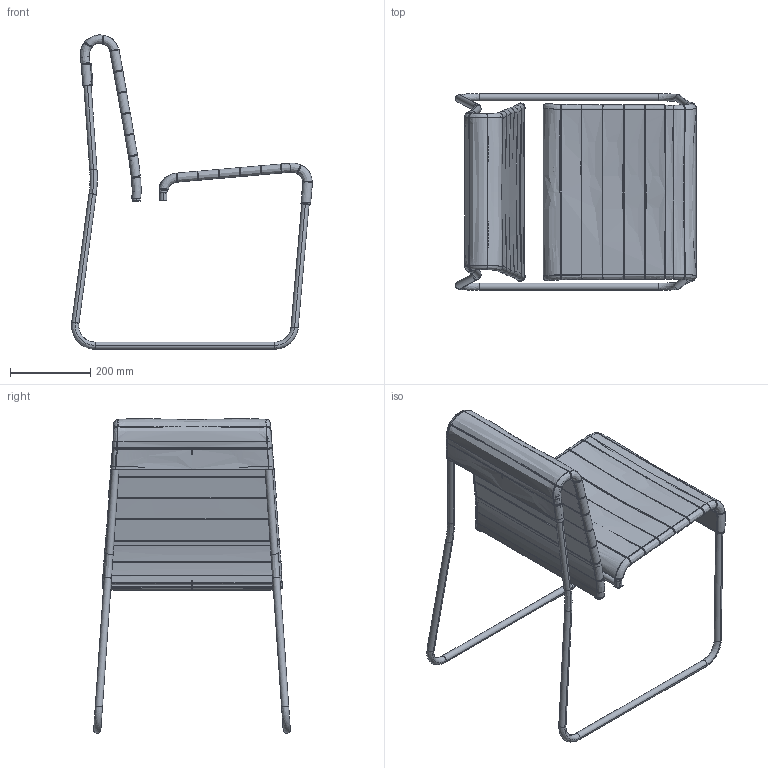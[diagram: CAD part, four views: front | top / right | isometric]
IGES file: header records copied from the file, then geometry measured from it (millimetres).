
Global section: file name: C:\Users\utente\Desktop\3d sito\FARALLON SIDE CHAIR\FARALLON SIDE CHAIR.igs; native system: Rhinoceros ( Mar  9 2011 ); preprocessor: Trout Lake IGES 012 Mar  9 2011; date: 170523.135926; units: millimetre
Bounding box: 599.52 x 489.27 x 782.65 mm (x, y, z)
Surface area: 2154199.5 mm2 (no closed solid volume)
Topology: 0 solids, 0 shells, 389 faces, 7517 edges, 8150 vertices
Faces by surface type: bspline 389
